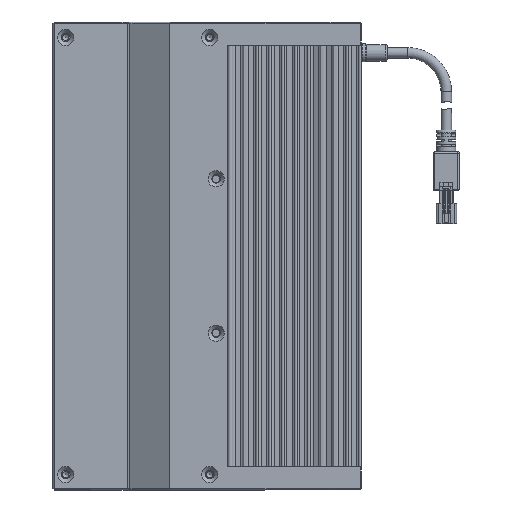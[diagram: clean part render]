
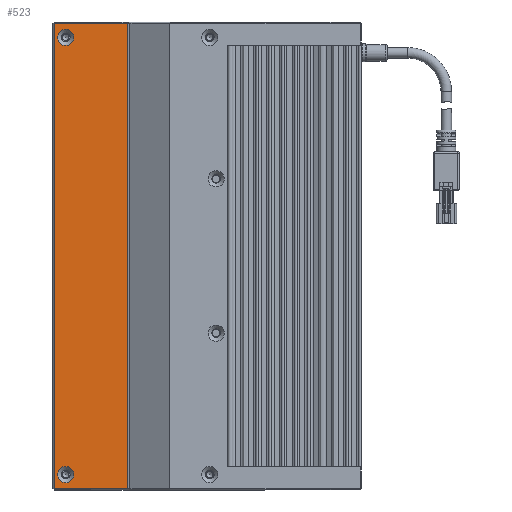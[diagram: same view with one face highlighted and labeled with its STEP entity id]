
A CAD part, left-side view. The second image highlights one B-rep face of the part: STEP entity #523.
In plain terms, the highlighted planar face has unit normal (-1, 0, 0).
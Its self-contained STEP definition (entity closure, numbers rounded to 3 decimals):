
#428 = CARTESIAN_POINT ( 'NONE',  ( -15.462, -6.987, 301. ) ) ;
#523 = ADVANCED_FACE ( 'NONE', ( #3809, #33523, #16452 ), #11592, .F. ) ;
#1409 = CIRCLE ( 'NONE', #30961, 3.15 ) ;
#3597 = CARTESIAN_POINT ( 'NONE',  ( -15.462, -7.561, 120. ) ) ;
#3809 = FACE_BOUND ( 'NONE', #30079, .T. ) ;
#3867 = ORIENTED_EDGE ( 'NONE', *, *, #8104, .F. ) ;
#4067 = DIRECTION ( 'NONE',  ( -1., 0., 0. ) ) ;
#4324 = CARTESIAN_POINT ( 'NONE',  ( -15.462, 16.939, 125.5 ) ) ;
#4860 = DIRECTION ( 'NONE',  ( 0., -1., 0. ) ) ;
#4955 = DIRECTION ( 'NONE',  ( 0., 0., 1. ) ) ;
#5181 = CARTESIAN_POINT ( 'NONE',  ( -15.462, 21.439, 299.5 ) ) ;
#5210 = CARTESIAN_POINT ( 'NONE',  ( -15.462, -6.987, 120. ) ) ;
#5894 = VERTEX_POINT ( 'NONE', #12414 ) ;
#6098 = VECTOR ( 'NONE', #31793, 1000. ) ;
#6913 = ORIENTED_EDGE ( 'NONE', *, *, #16553, .F. ) ;
#8104 = EDGE_CURVE ( 'NONE', #33712, #15785, #12379, .T. ) ;
#8847 = EDGE_LOOP ( 'NONE', ( #22821, #33351, #6913, #3867 ) ) ;
#9317 = VECTOR ( 'NONE', #21643, 1000. ) ;
#11095 = AXIS2_PLACEMENT_3D ( 'NONE', #29629, #19509, #29732 ) ;
#11592 = PLANE ( 'NONE',  #11095 ) ;
#11849 = LINE ( 'NONE', #27041, #6098 ) ;
#12379 = LINE ( 'NONE', #18249, #22918 ) ;
#12414 = CARTESIAN_POINT ( 'NONE',  ( -15.462, 16.939, 298.65 ) ) ;
#12859 = VERTEX_POINT ( 'NONE', #33285 ) ;
#13548 = EDGE_CURVE ( 'NONE', #15502, #33712, #28220, .T. ) ;
#14003 = EDGE_LOOP ( 'NONE', ( #31885 ) ) ;
#15297 = ORIENTED_EDGE ( 'NONE', *, *, #23731, .F. ) ;
#15502 = VERTEX_POINT ( 'NONE', #22356 ) ;
#15785 = VERTEX_POINT ( 'NONE', #428 ) ;
#16452 = FACE_OUTER_BOUND ( 'NONE', #8847, .T. ) ;
#16553 = EDGE_CURVE ( 'NONE', #15785, #30194, #11849, .T. ) ;
#18249 = CARTESIAN_POINT ( 'NONE',  ( -15.462, -7.561, 301. ) ) ;
#19509 = DIRECTION ( 'NONE',  ( 1., 0., 0. ) ) ;
#19516 = CARTESIAN_POINT ( 'NONE',  ( -15.462, 16.939, 295.5 ) ) ;
#19571 = CIRCLE ( 'NONE', #30590, 3.15 ) ;
#20670 = LINE ( 'NONE', #3597, #9317 ) ;
#21643 = DIRECTION ( 'NONE',  ( 0., 1., 0. ) ) ;
#22168 = DIRECTION ( 'NONE',  ( -1., 0., 0. ) ) ;
#22356 = CARTESIAN_POINT ( 'NONE',  ( -15.462, 21.439, 120. ) ) ;
#22821 = ORIENTED_EDGE ( 'NONE', *, *, #13548, .F. ) ;
#22918 = VECTOR ( 'NONE', #4860, 1000. ) ;
#23731 = EDGE_CURVE ( 'NONE', #12859, #12859, #19571, .T. ) ;
#27041 = CARTESIAN_POINT ( 'NONE',  ( -15.462, -6.987, 299.5 ) ) ;
#27363 = EDGE_CURVE ( 'NONE', #30194, #15502, #20670, .T. ) ;
#27372 = CARTESIAN_POINT ( 'NONE',  ( -15.462, 21.439, 301. ) ) ;
#28220 = LINE ( 'NONE', #5181, #28642 ) ;
#28642 = VECTOR ( 'NONE', #4955, 1000. ) ;
#29629 = CARTESIAN_POINT ( 'NONE',  ( -15.462, -7.561, 299.5 ) ) ;
#29732 = DIRECTION ( 'NONE',  ( 0., 0., -1. ) ) ;
#29848 = DIRECTION ( 'NONE',  ( 0., 0., 1. ) ) ;
#30079 = EDGE_LOOP ( 'NONE', ( #15297 ) ) ;
#30194 = VERTEX_POINT ( 'NONE', #5210 ) ;
#30216 = DIRECTION ( 'NONE',  ( 0., 0., 1. ) ) ;
#30590 = AXIS2_PLACEMENT_3D ( 'NONE', #4324, #22168, #30216 ) ;
#30961 = AXIS2_PLACEMENT_3D ( 'NONE', #19516, #4067, #29848 ) ;
#31048 = EDGE_CURVE ( 'NONE', #5894, #5894, #1409, .T. ) ;
#31793 = DIRECTION ( 'NONE',  ( 0., 0., -1. ) ) ;
#31885 = ORIENTED_EDGE ( 'NONE', *, *, #31048, .F. ) ;
#33285 = CARTESIAN_POINT ( 'NONE',  ( -15.462, 16.939, 128.65 ) ) ;
#33351 = ORIENTED_EDGE ( 'NONE', *, *, #27363, .F. ) ;
#33523 = FACE_BOUND ( 'NONE', #14003, .T. ) ;
#33712 = VERTEX_POINT ( 'NONE', #27372 ) ;
